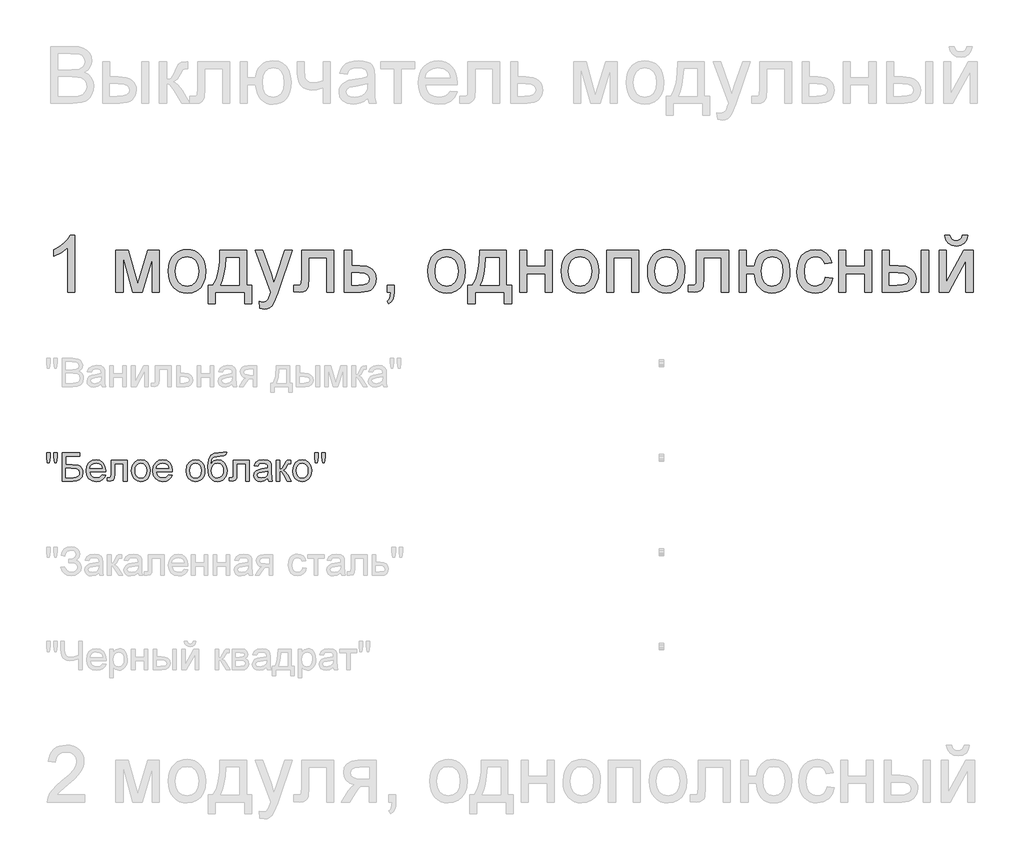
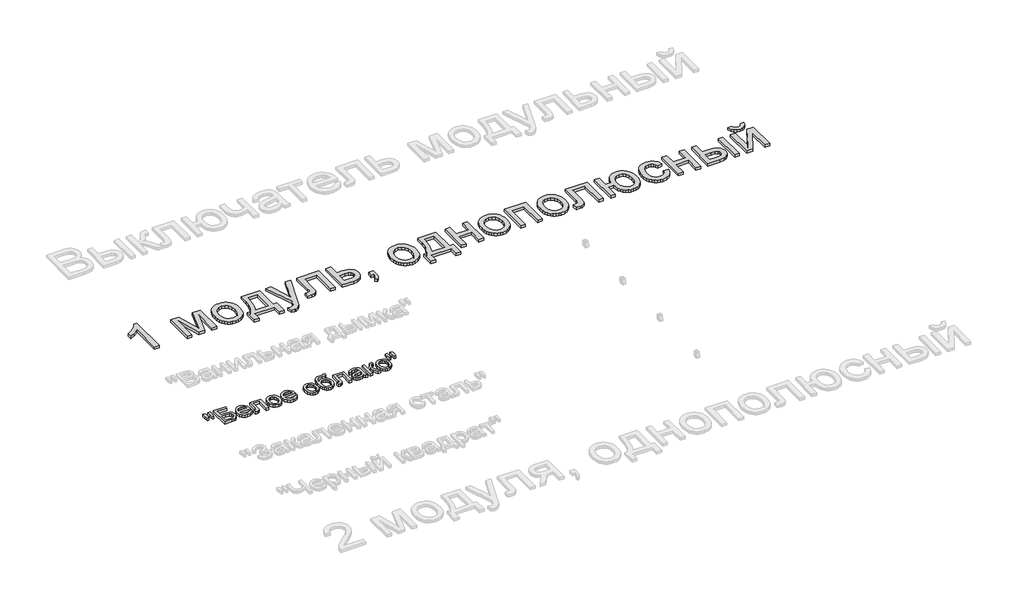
# One storey, part 38 of 168: 2 proxies.
"""IFC4 building model written with IfcOpenShell, lengths in millimetres."""

import ifcopenshell
import ifcopenshell.guid

model = None  # the IFC model being written
_history = None  # IfcOwnerHistory: only IFC2X3 demands one
_inside = {}  # id of a spatial element -> (the spatial element, [elements in it])
_under = {}  # id of a project, library or spatial element -> (it, [spatial elements below it])
_declared = {}  # id of a project -> (the project, [libraries it declares])
_typed = {}  # id of a type object -> (the type object, [elements of that type])
_made_of = {}  # id of a material, layer set ... -> (it, [elements and type objects made of it])


def new_model(schema):
    """Start an empty IFC model of exactly this schema.

    Asked for "IFC4X3", IfcOpenShell would pick the latest addendum, in which some entities
    have other attributes; the version numbers below select the first issue.
    IFC2X3 requires an IfcOwnerHistory on every rooted entity: one is made here for all.
    """
    global model, _history
    if schema == "IFC4X3":
        model = ifcopenshell.file(schema_version=(4, 3, 0, 0))
    else:
        model = ifcopenshell.file(schema=schema)
    _inside.clear()
    _under.clear()
    _declared.clear()
    _typed.clear()
    _made_of.clear()
    _history = None
    if model.schema == "IFC2X3":
        org = make("IfcOrganization", Name="unknown")
        user = make(
            "IfcPersonAndOrganization",
            ThePerson=make("IfcPerson", FamilyName="unknown"),
            TheOrganization=org,
        )
        app = make(
            "IfcApplication",
            ApplicationDeveloper=org,
            Version="unknown",
            ApplicationFullName="unknown",
            ApplicationIdentifier="unknown",
        )
        _history = make(
            "IfcOwnerHistory",
            OwningUser=user,
            OwningApplication=app,
            ChangeAction="ADDED",
            CreationDate=0,
        )
    return model


def make(cls, **values):
    """One entity of the class cls with the attributes given. An attribute that is None is left unset."""
    return model.create_entity(
        cls, **{name: value for name, value in values.items() if value is not None}
    )


def rooted(cls, **values):
    """An entity with a GlobalId (a new one), such as an element, a storey or a relation."""
    return make(cls, GlobalId=ifcopenshell.guid.new(), OwnerHistory=_history, **values)


def si_unit(unit_type, name, prefix=None):
    """IfcSIUnit, for example si_unit("LENGTHUNIT", "METRE", prefix="MILLI")."""
    return make("IfcSIUnit", UnitType=unit_type, Prefix=prefix, Name=name)


def assignment(units):
    """IfcUnitAssignment: the units of a project."""
    return None if units is None else make("IfcUnitAssignment", Units=units)


def point(xyz):
    """IfcCartesianPoint."""
    return None if xyz is None else make("IfcCartesianPoint", Coordinates=xyz)


def direction(xyz):
    """IfcDirection."""
    return None if xyz is None else make("IfcDirection", DirectionRatios=xyz)


def frame(location, z_axis=None, x_axis=None):
    """IfcAxis2Placement3D, a coordinate frame: its origin and axes. An axis left out is left unset."""
    return make(
        "IfcAxis2Placement3D",
        Location=point(location),
        Axis=direction(z_axis),
        RefDirection=direction(x_axis),
    )


def origin():
    """The frame at (0, 0, 0) with its axes left unset."""
    return frame((0.0, 0.0, 0.0))


def origin_with_axes():
    """The frame at (0, 0, 0) with the z axis (0, 0, 1) and the x axis (1, 0, 0) written out."""
    return frame((0.0, 0.0, 0.0), z_axis=(0.0, 0.0, 1.0), x_axis=(1.0, 0.0, 0.0))


def place(relative_to, where):
    """IfcLocalPlacement: puts the frame where relative to a parent placement (None: the world)."""
    return make(
        "IfcLocalPlacement", PlacementRelTo=relative_to, RelativePlacement=where
    )


def context(
    kind, dimensions, precision=None, world=None, true_north=None, identifier=None
):
    """IfcGeometricRepresentationContext, for example the 3D "Model" context."""
    return make(
        "IfcGeometricRepresentationContext",
        ContextIdentifier=identifier,
        ContextType=kind,
        CoordinateSpaceDimension=dimensions,
        Precision=precision,
        WorldCoordinateSystem=world,
        TrueNorth=true_north,
    )


def project(units=None, contexts=None):
    """IfcProject with its units and contexts."""
    return rooted(
        "IfcProject",
        Name="project",
        RepresentationContexts=contexts,
        UnitsInContext=assignment(units),
    )


def spatial(cls, under=None, at=None, **own):
    """A site, building, storey or space (cls), placed at a placement, below another one or the project."""
    s = rooted(cls, ObjectPlacement=at, **own)
    if under is not None:
        _under.setdefault(under.id(), (under, []))[1].append(s)
    return s


def polyline(points):
    """IfcPolyline through the points."""
    return make("IfcPolyline", Points=[point(p) for p in points])


def outline(outer, holes=None, kind="AREA"):
    """IfcArbitraryClosedProfileDef: a profile drawn as a closed curve; with holes, ...WithVoids."""
    if holes is None:
        return make("IfcArbitraryClosedProfileDef", ProfileType=kind, OuterCurve=outer)
    return make(
        "IfcArbitraryProfileDefWithVoids",
        ProfileType=kind,
        OuterCurve=outer,
        InnerCurves=holes,
    )


def extrude(swept, where, along, depth):
    """IfcExtrudedAreaSolid: the profile swept, set in the frame where, extruded along a direction by depth."""
    return make(
        "IfcExtrudedAreaSolid",
        SweptArea=swept,
        Position=where,
        ExtrudedDirection=direction(along),
        Depth=depth,
    )


def shape(context_of_items, identifier, shape_type, items):
    """IfcShapeRepresentation: the items that make up one representation, for example the "Body"."""
    return make(
        "IfcShapeRepresentation",
        ContextOfItems=context_of_items,
        RepresentationIdentifier=identifier,
        RepresentationType=shape_type,
        Items=items,
    )


def made_of(thing, what):
    """Note that an element or type object is made of a material, layer set ...; save() writes the relation."""
    if what is not None:
        _made_of.setdefault(what.id(), (what, []))[1].append(thing)
    return thing


def element(
    cls,
    number,
    at=None,
    inside=None,
    cuts=None,
    type_object=None,
    material=None,
    context=None,
    identifier="Body",
    shape_type=None,
    held_by="IfcProductDefinitionShape",
    body=None,
    shapes=None,
    **own,
):
    """One element of the class cls, such as IfcWall. Its Tag is "e" and its number.

    at: its placement. inside: the storey or other place that contains it. cuts: it is an
    opening in that element (IfcRelVoidsElement). A single representation is given by context,
    identifier, shape_type and body (its items); several are given by shapes. held_by: the class
    of the entity that holds the representations. save() writes the other relations.
    """
    e = rooted(cls, Tag="e%d" % number, ObjectPlacement=at, **own)
    if body is not None:
        shapes = [shape(context, identifier, shape_type, body)]
    if shapes is not None:
        e.Representation = make(held_by, Representations=shapes)
    if inside is not None:
        _inside.setdefault(inside.id(), (inside, []))[1].append(e)
    if cuts is not None:
        rooted(
            "IfcRelVoidsElement", RelatingBuildingElement=cuts, RelatedOpeningElement=e
        )
    if type_object is not None:
        _typed.setdefault(type_object.id(), (type_object, []))[1].append(e)
    return made_of(e, material)


def aggregate(whole, parts):
    """IfcRelAggregates: a whole, such as a stair, and the parts it consists of."""
    return rooted("IfcRelAggregates", RelatingObject=whole, RelatedObjects=parts)


def save(model, path):
    """Write the relations noted so far, then the file.

    IfcRelAggregates (storeys below a building ...), IfcRelContainedInSpatialStructure (elements
    in a storey), IfcRelDefinesByType, IfcRelAssociatesMaterial and IfcRelDeclares: one each for
    every whole, place, type object, material and project.
    """
    for whole, parts in _under.values():
        aggregate(whole, parts)
    for where, things in _inside.values():
        rooted(
            "IfcRelContainedInSpatialStructure",
            RelatedElements=things,
            RelatingStructure=where,
        )
    for kind, things in _typed.values():
        rooted("IfcRelDefinesByType", RelatedObjects=things, RelatingType=kind)
    for what, things in _made_of.values():
        rooted("IfcRelAssociatesMaterial", RelatedObjects=things, RelatingMaterial=what)
    for by, libraries in _declared.values():
        rooted("IfcRelDeclares", RelatingContext=by, RelatedDefinitions=libraries)
    model.write(path)


model = new_model("IFC4")

# Units and contexts
model_context = context("Model", 3, world=origin())
ifc_project = project(units=[si_unit("LENGTHUNIT", "METRE", prefix="MILLI")], contexts=[model_context])

# Site, building, storey
site = spatial("IfcSite", under=ifc_project)
building = spatial("IfcBuilding", under=site)
storey = spatial("IfcBuildingStorey", under=building, Name="Этаж 01", Elevation=0.0)

# Proxies
placement = place(None, origin())
element("IfcBuildingElementProxy", 1, Name="300 мм Arial 2", ObjectType="300 мм Arial 2", at=placement, inside=storey, context=model_context, shape_type="SweptSolid", body=[
    extrude(outline(polyline([(42126.2345192, -46660.5962843), (42088.5634029, -46660.5962843), (42088.5634029, -46425.7404186), (42052.8788494, -46451.1610644), (42013.2211703, -46470.1805636), (42013.2211703, -46434.5695865), (42042.8080797, -46418.4747492), (42068.4402577, -46399.3264913), (42088.6461763, -46378.9642229), (42101.9543075, -46359.2273539), (42126.2345192, -46359.2273539), (42126.2345192, -46660.5962843)])), origin_with_axes(), (0.0, 0.0, 1.0), 20.0),
    extrude(outline(polyline([(42342.843438, -46439.278476), (42407.6642455, -46439.278476), (42457.6226204, -46616.4504449), (42511.4805445, -46439.278476), (42573.5790253, -46439.278476), (42573.5790253, -46660.5962843), (42535.907909, -46660.5962843), (42535.907909, -46482.3942458), (42481.7556793, -46660.5962843), (42432.3123392, -46660.5962843), (42380.5145543, -46473.8593835), (42380.5145543, -46660.5962843), (42342.843438, -46660.5962843), (42342.843438, -46439.278476)])), origin_with_axes(), (0.0, 0.0, 1.0), 20.0),
    extrude(outline(polyline([(42620.6679207, -46549.9373802), (42622.7050673, -46521.2747742), (42628.8165069, -46496.5760968), (42639.0022396, -46475.8413478), (42653.2622655, -46459.0705273), (42667.6188603, -46448.3513657), (42683.4653773, -46440.6948217), (42700.8018163, -46436.1008953), (42719.6281774, -46434.5695865), (42740.4112109, -46436.4342883), (42759.203083, -46442.0283939), (42776.0037939, -46451.3519032), (42790.8133435, -46464.4048163), (42802.9005663, -46480.7456746), (42811.5342969, -46499.93302), (42816.7145352, -46521.9668522), (42818.4412813, -46546.8471714), (42815.3878608, -46584.9045638), (42806.2275991, -46613.8752709), (42791.2272107, -46635.5711116), (42770.6534101, -46651.8039046), (42746.2168486, -46661.9298565), (42719.6281774, -46665.3051738), (42698.5416413, -46663.4473698), (42679.5750252, -46657.8739575), (42662.7283291, -46648.5849372), (42648.001553, -46635.5803086), (42636.0430888, -46619.0808011), (42627.5013288, -46599.3071439), (42622.3762727, -46576.2593369), (42620.6679207, -46549.9373802)]), holes=[polyline([(42658.339037, -46549.8638038), (42662.6984387, -46583.9572677), (42675.7766436, -46608.2466764), (42695.4583303, -46622.7872122), (42719.6281774, -46627.6340575), (42743.6876599, -46622.7596211), (42763.3325584, -46608.1363118), (42776.4107634, -46583.5250063), (42780.770165, -46548.6865814), (42776.3831722, -46515.5863989), (42763.2221938, -46491.6280839), (42743.5497041, -46477.0875481), (42719.6281774, -46472.2407028), (42695.4583303, -46477.069154), (42675.7766436, -46491.5545075), (42662.6984387, -46515.7887339), (42658.339037, -46549.8638038)])]), origin_with_axes(), (0.0, 0.0, 1.0), 20.0),
    extrude(outline(polyline([(42893.7835139, -46439.278476), (43035.0502001, -46439.278476), (43035.0502001, -46622.925168), (43063.3035373, -46622.925168), (43063.3035373, -46721.8118483), (43025.632421, -46721.8118483), (43025.632421, -46660.5962843), (42870.2390662, -46660.5962843), (42870.2390662, -46721.8118483), (42832.5679499, -46721.8118483), (42832.5679499, -46622.925168), (42856.1123976, -46622.925168), (42873.2281074, -46591.9954892), (42885.2118634, -46551.0778143), (42892.0636656, -46500.1721433), (42893.7835139, -46439.278476)]), holes=[polyline([(42926.7457407, -46476.9495923), (42923.6555319, -46523.0727975), (42917.9165728, -46562.7764618), (42909.5288633, -46596.0605853), (42898.4924035, -46622.925168), (42997.3790838, -46622.925168), (42997.3790838, -46476.9495923), (42926.7457407, -46476.9495923)])]), origin_with_axes(), (0.0, 0.0, 1.0), 20.0),
    extrude(outline(polyline([(43105.6835431, -46745.356296), (43100.9746536, -46709.0831313), (43120.1045174, -46712.3940692), (43137.9835823, -46708.2370027), (43148.9464658, -46696.6487198), (43159.2471616, -46668.9104174), (43162.1902176, -46659.7869439), (43082.1390955, -46439.278476), (43121.8703509, -46439.278476), (43164.3239332, -46562.1510624), (43179.1127894, -46611.3000969), (43193.9016456, -46567.8900215), (43237.5324502, -46439.278476), (43276.9694001, -46439.278476), (43199.9349103, -46665.893785), (43179.9221298, -46715.0428196), (43169.6766162, -46730.7329867), (43158.0699393, -46741.6038996), (43144.5870641, -46747.9498641), (43128.712956, -46750.0651855), (43105.6835431, -46745.356296)])), origin_with_axes(), (0.0, 0.0, 1.0), 20.0),
    extrude(outline(polyline([(43327.0013514, -46439.278476), (43496.5213748, -46439.278476), (43496.5213748, -46660.3755551), (43458.8502585, -46660.3755551), (43458.8502585, -46476.9495923), (43364.6724678, -46476.9495923), (43364.6724678, -46582.5317249), (43362.134082, -46631.2393011), (43357.3792072, -46642.2665639), (43348.1913544, -46651.8039046), (43334.2486268, -46658.3981894), (43315.2291276, -46660.5962843), (43284.6213456, -46658.6832979), (43284.6213456, -46622.925168), (43301.470341, -46622.925168), (43318.5032774, -46620.6075114), (43325.3090943, -46613.2498715), (43327.0013514, -46580.3980094), (43327.0013514, -46439.278476)])), origin_with_axes(), (0.0, 0.0, 1.0), 20.0),
    extrude(outline(polyline([(43553.0280493, -46439.278476), (43590.6991656, -46439.278476), (43590.6991656, -46519.3295982), (43634.109241, -46519.3295982), (43671.7435691, -46524.0476847), (43686.8911103, -46529.945293), (43699.5922362, -46538.2019445), (43709.6354146, -46548.5325308), (43716.8091135, -46560.6519433), (43722.5480727, -46590.2572468), (43717.6644392, -46617.2138), (43703.0135387, -46639.9581044), (43691.7816416, -46648.9873081), (43677.620484, -46655.4367393), (43640.5103877, -46660.5962843), (43553.0280493, -46660.5962843), (43553.0280493, -46439.278476)]), holes=[polyline([(43590.6991656, -46622.925168), (43625.8686843, -46622.925168), (43653.1563313, -46620.9478023), (43671.3021107, -46615.0157051), (43681.483245, -46604.8897532), (43684.8769564, -46590.3308232), (43682.3661617, -46578.0251705), (43674.8337779, -46567.1542575), (43658.6929553, -46559.5391002), (43630.3568447, -46557.0007145), (43590.6991656, -46557.0007145), (43590.6991656, -46622.925168)])]), origin_with_axes(), (0.0, 0.0, 1.0), 20.0),
    extrude(outline(polyline([(43779.0547471, -46660.5962843), (43779.0547471, -46622.925168), (43816.7258634, -46622.925168), (43816.7258634, -46660.5962843), (43815.0336062, -46682.1449722), (43809.9568347, -46699.1135292), (43801.2012432, -46712.1273548), (43788.4725262, -46721.8118483), (43779.0547471, -46707.6851797), (43787.2217274, -46700.8609687), (43792.8871101, -46691.4247955), (43797.8167289, -46660.5962843), (43779.0547471, -46660.5962843)])), origin_with_axes(), (0.0, 0.0, 1.0), 20.0),
    extrude(outline(polyline([(43995.6636659, -46549.9373802), (43997.7008124, -46521.2747742), (44003.8122521, -46496.5760968), (44013.9979848, -46475.8413478), (44028.2580107, -46459.0705273), (44042.6146055, -46448.3513657), (44058.4611225, -46440.6948217), (44075.7975615, -46436.1008953), (44094.6239226, -46434.5695865), (44115.406956, -46436.4342883), (44134.1988282, -46442.0283939), (44150.9995391, -46451.3519032), (44165.8090887, -46464.4048163), (44177.8963115, -46480.7456746), (44186.530042, -46499.93302), (44191.7102804, -46521.9668522), (44193.4370265, -46546.8471714), (44190.3836059, -46584.9045638), (44181.2233442, -46613.8752709), (44166.2229559, -46635.5711116), (44145.6491553, -46651.8039046), (44121.2125938, -46661.9298565), (44094.6239226, -46665.3051738), (44073.5373865, -46663.4473698), (44054.5707704, -46657.8739575), (44037.7240742, -46648.5849372), (44022.9972981, -46635.5803086), (44011.038834, -46619.0808011), (44002.4970739, -46599.3071439), (43997.3720179, -46576.2593369), (43995.6636659, -46549.9373802)]), holes=[polyline([(44033.3347822, -46549.8638038), (44037.6941838, -46583.9572677), (44050.7723888, -46608.2466764), (44070.4540755, -46622.7872122), (44094.6239226, -46627.6340575), (44118.6834051, -46622.7596211), (44138.3283036, -46608.1363118), (44151.4065085, -46583.5250063), (44155.7659102, -46548.6865814), (44151.3789174, -46515.5863989), (44138.217939, -46491.6280839), (44118.5454493, -46477.0875481), (44094.6239226, -46472.2407028), (44070.4540755, -46477.069154), (44050.7723888, -46491.5545075), (44037.6941838, -46515.7887339), (44033.3347822, -46549.8638038)])]), origin_with_axes(), (0.0, 0.0, 1.0), 20.0),
    extrude(outline(polyline([(44268.7792591, -46439.278476), (44410.0459452, -46439.278476), (44410.0459452, -46622.925168), (44438.2992825, -46622.925168), (44438.2992825, -46721.8118483), (44400.6281662, -46721.8118483), (44400.6281662, -46660.5962843), (44245.2348114, -46660.5962843), (44245.2348114, -46721.8118483), (44207.5636951, -46721.8118483), (44207.5636951, -46622.925168), (44231.1081428, -46622.925168), (44248.2238526, -46591.9954892), (44260.2076086, -46551.0778143), (44267.0594108, -46500.1721433), (44268.7792591, -46439.278476)]), holes=[polyline([(44301.7414859, -46476.9495923), (44298.6512771, -46523.0727975), (44292.912318, -46562.7764618), (44284.5246085, -46596.0605853), (44273.4881486, -46622.925168), (44372.3748289, -46622.925168), (44372.3748289, -46476.9495923), (44301.7414859, -46476.9495923)])]), origin_with_axes(), (0.0, 0.0, 1.0), 20.0),
    extrude(outline(polyline([(44480.6792883, -46439.278476), (44518.3504046, -46439.278476), (44518.3504046, -46524.0384877), (44617.2370849, -46524.0384877), (44617.2370849, -46439.278476), (44654.9082012, -46439.278476), (44654.9082012, -46660.5962843), (44617.2370849, -46660.5962843), (44617.2370849, -46561.709604), (44518.3504046, -46561.709604), (44518.3504046, -46660.5962843), (44480.6792883, -46660.5962843), (44480.6792883, -46439.278476)])), origin_with_axes(), (0.0, 0.0, 1.0), 20.0),
    extrude(outline(polyline([(44701.9970966, -46549.9373802), (44704.0342432, -46521.2747742), (44710.1456828, -46496.5760968), (44720.3314156, -46475.8413478), (44734.5914414, -46459.0705273), (44748.9480363, -46448.3513657), (44764.7945532, -46440.6948217), (44782.1309922, -46436.1008953), (44800.9573533, -46434.5695865), (44821.7403868, -46436.4342883), (44840.532259, -46442.0283939), (44857.3329698, -46451.3519032), (44872.1425194, -46464.4048163), (44884.2297422, -46480.7456746), (44892.8634728, -46499.93302), (44898.0437111, -46521.9668522), (44899.7704572, -46546.8471714), (44896.7170367, -46584.9045638), (44887.556775, -46613.8752709), (44872.5563866, -46635.5711116), (44851.9825861, -46651.8039046), (44827.5460245, -46661.9298565), (44800.9573533, -46665.3051738), (44779.8708172, -46663.4473698), (44760.9042011, -46657.8739575), (44744.057505, -46648.5849372), (44729.3307289, -46635.5803086), (44717.3722648, -46619.0808011), (44708.8305047, -46599.3071439), (44703.7054486, -46576.2593369), (44701.9970966, -46549.9373802)]), holes=[polyline([(44739.6682129, -46549.8638038), (44744.0276146, -46583.9572677), (44757.1058195, -46608.2466764), (44776.7875062, -46622.7872122), (44800.9573533, -46627.6340575), (44825.0168358, -46622.7596211), (44844.6617344, -46608.1363118), (44857.7399393, -46583.5250063), (44862.0993409, -46548.6865814), (44857.7123481, -46515.5863989), (44844.5513698, -46491.6280839), (44824.8788801, -46477.0875481), (44800.9573533, -46472.2407028), (44776.7875062, -46477.069154), (44757.1058195, -46491.5545075), (44744.0276146, -46515.7887339), (44739.6682129, -46549.8638038)])]), origin_with_axes(), (0.0, 0.0, 1.0), 20.0),
    extrude(outline(polyline([(44942.1504631, -46439.278476), (45111.6704864, -46439.278476), (45111.6704864, -46660.5962843), (45073.9993701, -46660.5962843), (45073.9993701, -46476.9495923), (44979.8215794, -46476.9495923), (44979.8215794, -46660.5962843), (44942.1504631, -46660.5962843), (44942.1504631, -46439.278476)])), origin_with_axes(), (0.0, 0.0, 1.0), 20.0),
    extrude(outline(polyline([(45158.7593818, -46549.9373802), (45160.7965284, -46521.2747742), (45166.907968, -46496.5760968), (45177.0937008, -46475.8413478), (45191.3537266, -46459.0705273), (45205.7103215, -46448.3513657), (45221.5568384, -46440.6948217), (45238.8932774, -46436.1008953), (45257.7196385, -46434.5695865), (45278.502672, -46436.4342883), (45297.2945442, -46442.0283939), (45314.095255, -46451.3519032), (45328.9048046, -46464.4048163), (45340.9920274, -46480.7456746), (45349.625758, -46499.93302), (45354.8059963, -46521.9668522), (45356.5327424, -46546.8471714), (45353.4793219, -46584.9045638), (45344.3190602, -46613.8752709), (45329.3186718, -46635.5711116), (45308.7448713, -46651.8039046), (45284.3083097, -46661.9298565), (45257.7196385, -46665.3051738), (45236.6331024, -46663.4473698), (45217.6664863, -46657.8739575), (45200.8197902, -46648.5849372), (45186.0930141, -46635.5803086), (45174.13455, -46619.0808011), (45165.5927899, -46599.3071439), (45160.4677338, -46576.2593369), (45158.7593818, -46549.9373802)]), holes=[polyline([(45196.4304981, -46549.8638038), (45200.7898998, -46583.9572677), (45213.8681047, -46608.2466764), (45233.5497915, -46622.7872122), (45257.7196385, -46627.6340575), (45281.779121, -46622.7596211), (45301.4240196, -46608.1363118), (45314.5022245, -46583.5250063), (45318.8616261, -46548.6865814), (45314.4746333, -46515.5863989), (45301.313655, -46491.6280839), (45281.6411653, -46477.0875481), (45257.7196385, -46472.2407028), (45233.5497915, -46477.069154), (45213.8681047, -46491.5545075), (45200.7898998, -46515.7887339), (45196.4304981, -46549.8638038)])]), origin_with_axes(), (0.0, 0.0, 1.0), 20.0),
    extrude(outline(polyline([(45417.7483064, -46439.278476), (45587.2683298, -46439.278476), (45587.2683298, -46660.3755551), (45549.5972135, -46660.3755551), (45549.5972135, -46476.9495923), (45455.4194227, -46476.9495923), (45455.4194227, -46582.5317249), (45452.881037, -46631.2393011), (45448.1261622, -46642.2665639), (45438.9383094, -46651.8039046), (45424.9955817, -46658.3981894), (45405.9760826, -46660.5962843), (45375.3683006, -46658.6832979), (45375.3683006, -46622.925168), (45392.217296, -46622.925168), (45409.2502323, -46620.6075114), (45416.0560493, -46613.2498715), (45417.7483064, -46580.3980094), (45417.7483064, -46439.278476)])), origin_with_axes(), (0.0, 0.0, 1.0), 20.0),
    extrude(outline(polyline([(45643.7750043, -46439.278476), (45681.4461206, -46439.278476), (45681.4461206, -46524.0384877), (45723.8261264, -46524.0384877), (45733.6025904, -46485.6316074), (45742.1259564, -46470.2909282), (45753.072745, -46457.525423), (45766.1348551, -46447.4822445), (45781.0041855, -46440.3085456), (45816.1645072, -46434.5695865), (45845.7146285, -46437.9449038), (45868.2933859, -46448.0708557), (45885.7125984, -46464.1197077), (45899.7840847, -46485.2637254), (45909.0823021, -46513.0756042), (45912.181708, -46549.1280398), (45910.579122, -46575.9834254), (45905.7713642, -46599.3807203), (45897.7584345, -46619.3199244), (45886.5403329, -46635.8010378), (45872.5769119, -46648.7090973), (45856.328024, -46657.9291398), (45837.7936693, -46663.4611653), (45816.9738476, -46665.3051738), (45797.5703716, -46663.5761285), (45780.1948451, -46658.3889923), (45764.8472681, -46649.7437654), (45751.5276407, -46637.6404478), (45740.5670565, -46622.5204978), (45732.2966094, -46604.8253738), (45723.8261264, -46561.709604), (45681.4461206, -46561.709604), (45681.4461206, -46660.5962843), (45643.7750043, -46660.5962843), (45643.7750043, -46439.278476)]), holes=[polyline([(45818.5925284, -46472.2407028), (45794.5790311, -46477.1151392), (45776.5436163, -46491.7384485), (45765.2588361, -46515.1541375), (45761.4972427, -46546.405713), (45765.2864273, -46582.8168335), (45776.6539809, -46608.0259472), (45794.367499, -46622.7320299), (45817.1945768, -46627.6340575), (45840.0860339, -46623.0999119), (45858.4341485, -46609.4974752), (45870.4914809, -46585.7966776), (45874.5105916, -46550.9674497), (45871.0341068, -46516.5244979), (45860.6046522, -46491.9223895), (45843.1486516, -46477.1611245), (45818.5925284, -46472.2407028)])]), origin_with_axes(), (0.0, 0.0, 1.0), 20.0),
    extrude(outline(polyline([(46100.5372895, -46580.5451621), (46138.2084058, -46585.2540517), (46127.7053748, -46618.7589044), (46107.9685058, -46644.0783827), (46080.8556027, -46659.9984761), (46048.2244698, -46665.3051738), (46027.0965469, -46663.4542676), (46008.1529234, -46657.9015487), (45991.3935993, -46648.6470172), (45976.8185745, -46635.6906732), (45965.0210588, -46619.2762385), (45956.5942618, -46599.6474347), (45951.5381837, -46576.8042621), (45949.8528243, -46550.7467205), (45952.7315009, -46517.2234737), (45961.3675307, -46488.1699932), (45975.8988695, -46464.7083189), (45996.463473, -46447.9604911), (46021.0655815, -46437.9173126), (46047.709435, -46434.5695865), (46079.5404246, -46439.1681114), (46104.9886616, -46452.9636862), (46123.2448056, -46475.2205469), (46133.4995163, -46505.2029295), (46095.8283999, -46509.9118191), (46088.9949919, -46493.4766909), (46078.3540052, -46481.69527), (46064.494051, -46474.6043446), (46048.0037406, -46472.2407028), (46023.6591495, -46476.89441), (46004.3361477, -46490.8555317), (45991.7269924, -46514.878226), (45987.5239406, -46549.716651), (45991.6350219, -46585.0241254), (46003.9682658, -46609.1295932), (46022.9417797, -46623.0079414), (46046.973671, -46627.6340575), (46066.4806138, -46624.7461839), (46082.4742835, -46616.0825629), (46094.1085516, -46601.4224654), (46100.5372895, -46580.5451621)])), origin_with_axes(), (0.0, 0.0, 1.0), 20.0),
    extrude(outline(polyline([(46171.1706326, -46439.278476), (46208.8417489, -46439.278476), (46208.8417489, -46524.0384877), (46307.7284292, -46524.0384877), (46307.7284292, -46439.278476), (46345.3995455, -46439.278476), (46345.3995455, -46660.5962843), (46307.7284292, -46660.5962843), (46307.7284292, -46561.709604), (46208.8417489, -46561.709604), (46208.8417489, -46660.5962843), (46171.1706326, -46660.5962843), (46171.1706326, -46439.278476)])), origin_with_axes(), (0.0, 0.0, 1.0), 20.0),
    extrude(outline(polyline([(46609.0973596, -46439.278476), (46646.7684759, -46439.278476), (46646.7684759, -46660.5962843), (46609.0973596, -46660.5962843), (46609.0973596, -46439.278476)])), origin_with_axes(), (0.0, 0.0, 1.0), 20.0),
    extrude(outline(polyline([(46401.9062199, -46439.278476), (46439.5773362, -46439.278476), (46439.5773362, -46519.3295982), (46486.1511968, -46519.3295982), (46526.4066842, -46524.0476847), (46542.6233824, -46529.945293), (46556.2327169, -46538.2019445), (46567.0001631, -46548.5325308), (46574.691196, -46560.6519433), (46579.3058158, -46574.5601819), (46580.8440224, -46590.2572468), (46575.6844774, -46617.2138), (46560.2058425, -46639.9581044), (46548.3439474, -46648.9873081), (46533.3964421, -46655.4367393), (46494.2446007, -46660.5962843), (46401.9062199, -46660.5962843), (46401.9062199, -46439.278476)]), holes=[polyline([(46439.5773362, -46622.925168), (46478.2785221, -46622.925168), (46508.2792988, -46620.9478023), (46528.2368971, -46615.0157051), (46539.4389038, -46604.8897532), (46543.1729061, -46590.3308232), (46540.4045941, -46578.0251705), (46532.099658, -46567.1542575), (46514.3401547, -46559.5391002), (46483.2081409, -46557.0007145), (46439.5773362, -46557.0007145), (46439.5773362, -46622.925168)])]), origin_with_axes(), (0.0, 0.0, 1.0), 20.0),
    extrude(outline(polyline([(46703.2751504, -46439.278476), (46740.9462667, -46439.278476), (46740.9462667, -46608.0627354), (46833.5053767, -46439.278476), (46882.2129528, -46439.278476), (46882.2129528, -46660.5962843), (46844.5418365, -46660.5962843), (46844.5418365, -46492.8420945), (46752.5713377, -46660.5962843), (46703.2751504, -46660.5962843), (46703.2751504, -46439.278476)])), origin_with_axes(), (0.0, 0.0, 1.0), 20.0),
    extrude(outline(polyline([(46825.7062784, -46359.2273539), (46853.9596156, -46359.2273539), (46847.8803656, -46383.3512157), (46835.6758804, -46401.1291131), (46817.897983, -46412.0827995), (46795.0984964, -46415.7340283), (46770.3584322, -46412.1103907), (46751.1733862, -46401.2394777), (46738.058393, -46383.4891714), (46731.5284876, -46359.2273539), (46759.7818248, -46359.2273539), (46763.7549504, -46371.6341741), (46770.3768263, -46380.454145), (46779.6842408, -46385.7240546), (46791.713982, -46387.4806911), (46805.2888276, -46385.7792369), (46815.1112769, -46380.6748742), (46821.7331528, -46371.9100856), (46825.7062784, -46359.2273539)])), origin_with_axes(), (0.0, 0.0, 1.0), 20.0),
])
element("IfcBuildingElementProxy", 2, Name="150", ObjectType="150", at=placement, inside=storey, context=model_context, shape_type="SweptSolid", body=[
    extrude(outline(polyline([(41980.1485789, -47564.0640488), (41975.550054, -47534.9645829), (41975.550054, -47509.9118191), (41994.3856121, -47509.9118191), (41994.3856121, -47534.9645829), (41990.2653338, -47564.0640488), (41980.1485789, -47564.0640488)])), origin_with_axes(), (0.0, 0.0, 1.0), 20.0),
    extrude(outline(polyline([(42017.7093306, -47564.0640488), (42013.2211703, -47534.9645829), (42013.2211703, -47509.9118191), (42032.0567284, -47509.9118191), (42032.0567284, -47534.9645829), (42027.6421445, -47564.0640488), (42017.7093306, -47564.0640488)])), origin_with_axes(), (0.0, 0.0, 1.0), 20.0),
    extrude(outline(polyline([(42057.9556209, -47509.9118191), (42152.1334117, -47509.9118191), (42152.1334117, -47528.7473772), (42076.791179, -47528.7473772), (42076.791179, -47573.4818278), (42112.0710624, -47573.4818278), (42143.157091, -47577.3078006), (42153.5589544, -47582.8352276), (42161.6615553, -47591.765563), (42166.8762826, -47603.2618754), (42168.614525, -47616.4872331), (42163.6665122, -47637.9531475), (42148.8960501, -47654.268714), (42135.6247071, -47659.0143917), (42115.4555767, -47660.5962843), (42057.9556209, -47660.5962843), (42057.9556209, -47509.9118191)]), holes=[polyline([(42076.791179, -47641.7607261), (42117.1478339, -47641.7607261), (42131.4124583, -47640.2064247), (42141.6119866, -47635.5435204), (42147.7372218, -47627.7720133), (42149.7789669, -47616.8919033), (42145.1068655, -47602.1398353), (42132.102237, -47594.2671606), (42103.7201411, -47592.317386), (42076.791179, -47592.317386), (42076.791179, -47641.7607261)])]), origin_with_axes(), (0.0, 0.0, 1.0), 20.0),
    extrude(outline(polyline([(42269.6349209, -47627.6340575), (42288.1025971, -47629.9885023), (42281.4485315, -47643.9036388), (42270.8305374, -47654.3055022), (42256.4877381, -47660.7894223), (42238.6592569, -47662.9507291), (42216.5587461, -47659.2213253), (42199.5534008, -47648.0331142), (42188.710079, -47630.1126625), (42185.0956384, -47606.1865372), (42188.7468672, -47581.4556701), (42199.7005536, -47562.9604028), (42216.4759726, -47551.4273022), (42237.5923991, -47547.5829354), (42258.0512366, -47551.4181052), (42274.3989927, -47562.9236146), (42285.1181544, -47581.3820937), (42288.6912083, -47606.0761726), (42288.5808437, -47611.1529441), (42203.9311966, -47611.1529441), (42207.1915508, -47625.2520216), (42214.7653213, -47635.6170968), (42225.6960151, -47641.9906524), (42239.0271389, -47644.1151709), (42257.4948151, -47640.1788336), (42269.6349209, -47627.6340575)]), holes=[polyline([(42203.9311966, -47592.317386), (42269.8556501, -47592.317386), (42267.3080673, -47582.366178), (42262.3140692, -47575.2476614), (42251.3327917, -47568.6257855), (42237.5188227, -47566.4184935), (42224.8222954, -47568.1797286), (42214.3238629, -47573.4634337), (42207.0260039, -47581.6993919), (42203.9311966, -47592.317386)])]), origin_with_axes(), (0.0, 0.0, 1.0), 20.0),
    extrude(outline(polyline([(42316.9445455, -47549.9373802), (42401.7045572, -47549.9373802), (42401.7045572, -47660.4859197), (42382.868999, -47660.4859197), (42382.868999, -47568.7729383), (42335.7801036, -47568.7729383), (42335.7801036, -47621.5640046), (42334.5109108, -47645.9177927), (42327.539547, -47656.2000945), (42311.0584336, -47660.5962843), (42295.7545426, -47659.6397911), (42295.7545426, -47641.7607261), (42304.1790403, -47641.7607261), (42312.6955084, -47640.6018979), (42316.0984169, -47636.9230779), (42316.9445455, -47620.4971468), (42316.9445455, -47549.9373802)])), origin_with_axes(), (0.0, 0.0, 1.0), 20.0),
    extrude(outline(polyline([(42425.2490049, -47605.2668322), (42429.323298, -47578.5861905), (42441.5461773, -47559.8334058), (42456.6477332, -47550.645553), (42474.7291332, -47547.5829354), (42494.516586, -47551.3123391), (42510.3217163, -47562.5005503), (42520.6821929, -47580.2646521), (42524.1356852, -47603.7217278), (42522.6089749, -47622.750424), (42518.0288441, -47637.2357776), (42510.5286499, -47648.0836979), (42500.2417496, -47656.2000945), (42488.0234688, -47661.2630704), (42474.7291332, -47662.9507291), (42454.7025571, -47659.2351209), (42438.915821, -47648.0882965), (42428.6657089, -47629.9517141), (42425.2490049, -47605.2668322)]), holes=[polyline([(42444.084563, -47605.230044), (42446.2642638, -47622.276776), (42452.8033663, -47634.4214803), (42462.6442097, -47641.6917483), (42474.7291332, -47644.1151709), (42486.7588745, -47641.6779527), (42496.5813237, -47634.366298), (42503.1204262, -47622.0606453), (42505.300127, -47604.6414328), (42503.1066306, -47588.0913416), (42496.5261414, -47576.1121841), (42486.6898966, -47568.8419162), (42474.7291332, -47566.4184935), (42462.6442097, -47568.8327191), (42452.8033663, -47576.0753959), (42446.2642638, -47588.1925091), (42444.084563, -47605.230044)])]), origin_with_axes(), (0.0, 0.0, 1.0), 20.0),
    extrude(outline(polyline([(42622.8016363, -47627.6340575), (42641.2693124, -47629.9885023), (42634.6152469, -47643.9036388), (42623.9972528, -47654.3055022), (42609.6544535, -47660.7894223), (42591.8259723, -47662.9507291), (42569.7254614, -47659.2213253), (42552.7201162, -47648.0331142), (42541.8767944, -47630.1126625), (42538.2623538, -47606.1865372), (42541.9135826, -47581.4556701), (42552.867269, -47562.9604028), (42569.642688, -47551.4273022), (42590.7591145, -47547.5829354), (42611.217952, -47551.4181052), (42627.5657081, -47562.9236146), (42638.2848698, -47581.3820937), (42641.8579236, -47606.0761726), (42641.747559, -47611.1529441), (42557.0979119, -47611.1529441), (42560.3582661, -47625.2520216), (42567.9320367, -47635.6170968), (42578.8627305, -47641.9906524), (42592.1938543, -47644.1151709), (42610.6615304, -47640.1788336), (42622.8016363, -47627.6340575)]), holes=[polyline([(42557.0979119, -47592.317386), (42623.0223655, -47592.317386), (42620.4747827, -47582.366178), (42615.4807846, -47575.2476614), (42604.499507, -47568.6257855), (42590.6855381, -47566.4184935), (42577.9890107, -47568.1797286), (42567.4905783, -47573.4634337), (42560.1927192, -47581.6993919), (42557.0979119, -47592.317386)])]), origin_with_axes(), (0.0, 0.0, 1.0), 20.0),
    extrude(outline(polyline([(42714.8457115, -47605.2668322), (42718.9200046, -47578.5861905), (42731.1428839, -47559.8334058), (42746.2444398, -47550.645553), (42764.3258398, -47547.5829354), (42784.1132926, -47551.3123391), (42799.9184229, -47562.5005503), (42810.2788995, -47580.2646521), (42813.7323918, -47603.7217278), (42812.2056815, -47622.750424), (42807.6255507, -47637.2357776), (42800.1253565, -47648.0836979), (42789.8384562, -47656.2000945), (42777.6201754, -47661.2630704), (42764.3258398, -47662.9507291), (42744.2992637, -47659.2351209), (42728.5125276, -47648.0882965), (42718.2624155, -47629.9517141), (42714.8457115, -47605.2668322)]), holes=[polyline([(42733.6812696, -47605.230044), (42735.8609704, -47622.276776), (42742.4000729, -47634.4214803), (42752.2409163, -47641.6917483), (42764.3258398, -47644.1151709), (42776.3555811, -47641.6779527), (42786.1780303, -47634.366298), (42792.7171328, -47622.0606453), (42794.8968336, -47604.6414328), (42792.7033372, -47588.0913416), (42786.122848, -47576.1121841), (42776.2866032, -47568.8419162), (42764.3258398, -47566.4184935), (42752.2409163, -47568.8327191), (42742.4000729, -47576.0753959), (42735.8609704, -47588.1925091), (42733.6812696, -47605.230044)])]), origin_with_axes(), (0.0, 0.0, 1.0), 20.0),
    extrude(outline(polyline([(42912.6190721, -47507.5573743), (42929.1001855, -47507.5573743), (42924.2441431, -47522.25426), (42914.6424231, -47527.5701548), (42891.576222, -47528.7473772), (42860.5085875, -47533.0883848), (42853.3808738, -47538.7353734), (42848.5892108, -47546.9943242), (42844.560903, -47571.6056297), (42860.8764695, -47553.5794119), (42870.7954878, -47549.0820545), (42881.9009255, -47547.5829354), (42901.4998388, -47551.3951126), (42917.401538, -47562.8316441), (42927.9413572, -47580.7704899), (42931.4546302, -47604.0896098), (42929.7117893, -47622.0698424), (42924.4832664, -47636.5000136), (42907.9469707, -47656.0529417), (42896.6529935, -47661.2262822), (42881.9009255, -47662.9507291), (42864.9001788, -47660.7296415), (42852.1576662, -47654.0663789), (42842.7812738, -47643.940427), (42835.8788879, -47631.3312716), (42831.6298508, -47612.3439621), (42830.2135052, -47583.0835479), (42833.786559, -47546.9437404), (42844.5057207, -47524.9030104), (42862.6377045, -47513.6596169), (42888.449225, -47509.9118191), (42909.4184987, -47509.4887548), (42912.6190721, -47507.5573743)]), holes=[polyline([(42912.6190721, -47603.5009986), (42910.577327, -47588.6799528), (42904.4520918, -47576.8111599), (42894.6112484, -47569.0166601), (42881.4226789, -47566.4184935), (42867.6730893, -47569.1638129), (42857.473561, -47577.3997711), (42851.1551877, -47590.2250571), (42849.0490633, -47606.7383602), (42851.3759169, -47622.7458255), (42858.3564778, -47634.4950567), (42868.7491442, -47641.7101424), (42881.3123143, -47644.1151709), (42893.9398638, -47641.3330633), (42903.937057, -47632.9867406), (42910.4485683, -47620.0510899), (42912.6190721, -47603.5009986)])]), origin_with_axes(), (0.0, 0.0, 1.0), 20.0),
    extrude(outline(polyline([(42964.416857, -47549.9373802), (43049.1768687, -47549.9373802), (43049.1768687, -47660.4859197), (43030.3413105, -47660.4859197), (43030.3413105, -47568.7729383), (42983.2524152, -47568.7729383), (42983.2524152, -47621.5640046), (42981.9832223, -47645.9177927), (42975.0118585, -47656.2000945), (42958.5307451, -47660.5962843), (42943.2268541, -47659.6397911), (42943.2268541, -47641.7607261), (42951.6513518, -47641.7607261), (42960.16782, -47640.6018979), (42963.5707284, -47636.9230779), (42964.416857, -47620.4971468), (42964.416857, -47549.9373802)])), origin_with_axes(), (0.0, 0.0, 1.0), 20.0),
    extrude(outline(polyline([(43148.063549, -47646.4696157), (43129.7982079, -47659.2351209), (43109.6198805, -47662.9507291), (43093.8791296, -47660.7158459), (43082.2678542, -47654.0111966), (43075.1079508, -47643.8300624), (43072.7213164, -47631.1657247), (43076.3265599, -47616.2665039), (43085.7995213, -47605.4507732), (43098.9880908, -47599.2703557), (43115.2852632, -47596.4376643), (43147.9531844, -47589.9629412), (43148.063549, -47585.7690865), (43146.766765, -47577.3629829), (43142.8764129, -47571.8631471), (43134.1760037, -47567.7796569), (43122.0542919, -47566.4184935), (43102.9980046, -47570.0421312), (43093.9113193, -47582.8996069), (43075.0757612, -47580.5451621), (43083.2243473, -47562.1510624), (43099.6318843, -47551.3721199), (43124.4823131, -47547.5829354), (43147.3093909, -47550.9306615), (43160.2036548, -47559.3367651), (43165.9794022, -47572.1206645), (43166.8991071, -47588.6017778), (43166.8991071, -47612.0358609), (43167.8556003, -47644.7589644), (43171.6079967, -47660.5962843), (43152.7724385, -47660.5962843), (43148.063549, -47646.4696157)]), holes=[polyline([(43148.063549, -47608.7984994), (43117.6764962, -47614.5742467), (43101.4712943, -47617.6276673), (43094.1320485, -47622.5940742), (43091.5568745, -47629.8413495), (43097.167075, -47640.0316808), (43113.6297942, -47644.1151709), (43132.6860816, -47639.6086165), (43144.9733402, -47628.7009153), (43147.9531844, -47614.1327883), (43148.063549, -47608.7984994)])]), origin_with_axes(), (0.0, 0.0, 1.0), 20.0),
    extrude(outline(polyline([(43192.7979996, -47549.9373802), (43211.6335578, -47549.9373802), (43211.6335578, -47597.0262755), (43224.2519102, -47593.6417612), (43234.5893943, -47573.9232862), (43243.1794388, -47556.908744), (43250.7578079, -47551.3721199), (43264.5349887, -47549.9373802), (43268.1402322, -47549.9373802), (43268.1402322, -47568.8833029), (43263.0634607, -47568.7729383), (43253.8664108, -47570.7595011), (43247.3916877, -47583.1571243), (43239.7949245, -47596.566423), (43229.1447407, -47603.1331167), (43241.0273292, -47610.4631654), (43252.6891884, -47625.9050122), (43272.8491218, -47660.5962843), (43251.4383896, -47660.5962843), (43231.6831265, -47626.6407761), (43221.7503126, -47612.2749842), (43211.6335578, -47608.7984994), (43211.6335578, -47660.5962843), (43192.7979996, -47660.5962843), (43192.7979996, -47549.9373802)])), origin_with_axes(), (0.0, 0.0, 1.0), 20.0),
    extrude(outline(polyline([(43279.9124561, -47605.2668322), (43283.9867492, -47578.5861905), (43296.2096285, -47559.8334058), (43311.3111844, -47550.645553), (43329.3925844, -47547.5829354), (43349.1800372, -47551.3123391), (43364.9851674, -47562.5005503), (43375.3456441, -47580.2646521), (43378.7991364, -47603.7217278), (43377.2724261, -47622.750424), (43372.6922952, -47637.2357776), (43365.1921011, -47648.0836979), (43354.9052008, -47656.2000945), (43342.68692, -47661.2630704), (43329.3925844, -47662.9507291), (43309.3660083, -47659.2351209), (43293.5792722, -47648.0882965), (43283.3291601, -47629.9517141), (43279.9124561, -47605.2668322)]), holes=[polyline([(43298.7480142, -47605.230044), (43300.927715, -47622.276776), (43307.4668175, -47634.4214803), (43317.3076609, -47641.6917483), (43329.3925844, -47644.1151709), (43341.4223257, -47641.6779527), (43351.2447749, -47634.366298), (43357.7838774, -47622.0606453), (43359.9635782, -47604.6414328), (43357.7700818, -47588.0913416), (43351.1895926, -47576.1121841), (43341.3533478, -47568.8419162), (43329.3925844, -47566.4184935), (43317.3076609, -47568.8327191), (43307.4668175, -47576.0753959), (43300.927715, -47588.1925091), (43298.7480142, -47605.230044)])]), origin_with_axes(), (0.0, 0.0, 1.0), 20.0),
    extrude(outline(polyline([(43399.8787747, -47564.0640488), (43395.2802498, -47534.9645829), (43395.2802498, -47509.9118191), (43414.1158079, -47509.9118191), (43414.1158079, -47534.9645829), (43409.9955296, -47564.0640488), (43399.8787747, -47564.0640488)])), origin_with_axes(), (0.0, 0.0, 1.0), 20.0),
    extrude(outline(polyline([(43437.4395264, -47564.0640488), (43432.9513661, -47534.9645829), (43432.9513661, -47509.9118191), (43451.7869242, -47509.9118191), (43451.7869242, -47534.9645829), (43447.3723403, -47564.0640488), (43437.4395264, -47564.0640488)])), origin_with_axes(), (0.0, 0.0, 1.0), 20.0),
])

save(model, "model.ifc")
